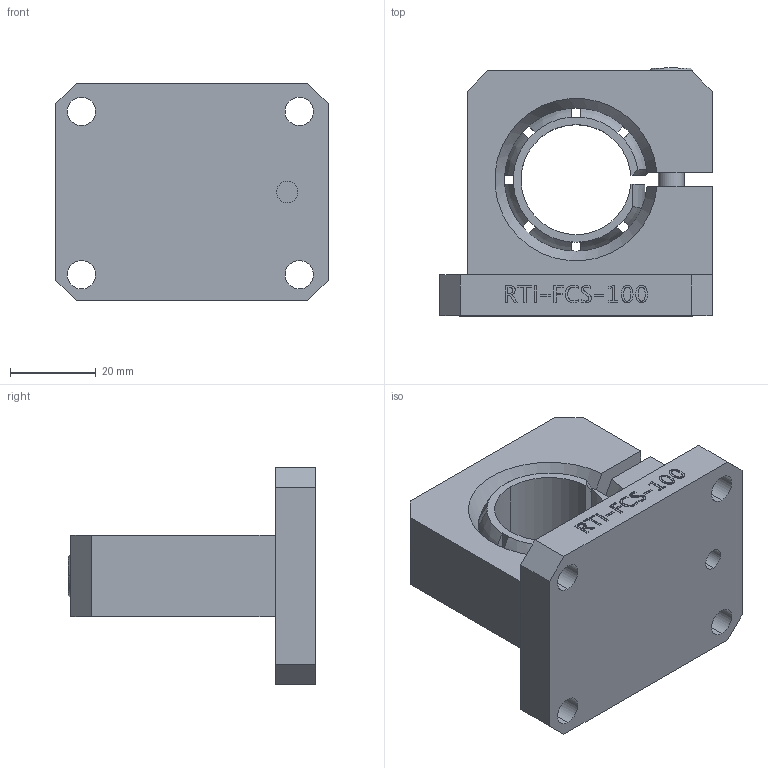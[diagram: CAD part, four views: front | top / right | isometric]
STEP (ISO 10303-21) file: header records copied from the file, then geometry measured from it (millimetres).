
FILE_DESCRIPTION (( 'STEP AP214' ), '1' );
FILE_NAME ('RTI-FCS-100.STEP', '2013-10-22T13:52:38', ( 'user' ), ( '' ), 'SwSTEP 2.0', 'SolidWorks 2009', '' );
FILE_SCHEMA (( 'AUTOMOTIVE_DESIGN' ));
Length unit declared in the file: inch
Products named in the file (5): RTI-FCS-100; 1.375 OD_1.01 ID_Swivel_Ball; M6 WASHER; M6 S.H.C.S._M6x40mm
Assembly tree (4 placements, depth 2):
  RTI-FCS-100
    M6 WASHER
    RTI-FCS-100
    1.375 OD_1.01 ID_Swivel_Ball
    M6 S.H.C.S._M6x40mm
Bounding box: 63.5 x 57.8 x 50.8 mm (x, y, z)
Volume: 66853.8 mm3; surface area: 23074.2 mm2
Topology: 4 solids, 4 shells, 401 faces, 1055 edges, 702 vertices
Faces by surface type: plane 246, bspline 103, cylinder 34, torus 8, cone 7, sphere 3
Entity records: 22607 total; most frequent: CARTESIAN_POINT 9400, ORIENTED_EDGE 2104, DIRECTION 1536, EDGE_CURVE 1052, LINE 722, VECTOR 722, VERTEX_POINT 700, EDGE_LOOP 456
